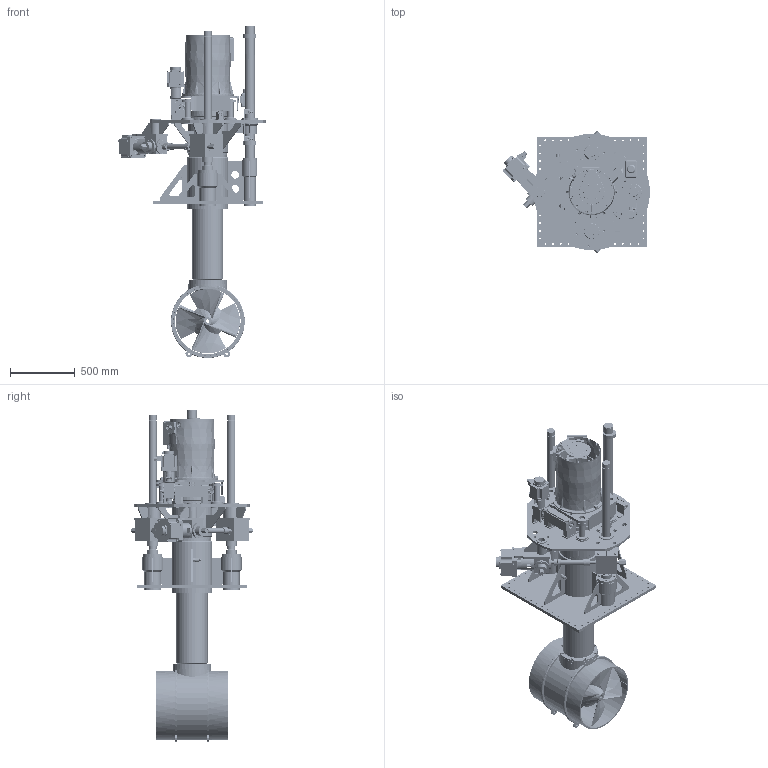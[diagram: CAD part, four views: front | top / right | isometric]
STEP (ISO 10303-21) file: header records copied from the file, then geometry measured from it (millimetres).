
FILE_DESCRIPTION(/* description */ (''),/* implementation_level */ '2;1');
FILE_NAME(/* name */ 'Q:\THRUSTERS\THRUSTER SALES & SUPPORT DOCS\THRUSTER Sales\E-V-R\E-0500-V-R\MODELS\E-0500-V-R-DEPLOYED.stp',/* time_stamp */ '2021-01-28T16:43:55+00:00',/* author */ ('Barney.Webborn'),/* organization */ (''),/* preprocessor_version */ 'ST-DEVELOPER v17.2',/* originating_system */ 'Autodesk Inventor 2019',/* authorisation */ '');
FILE_SCHEMA (('AUTOMOTIVE_DESIGN { 1 0 10303 214 3 1 1 }'));
Length unit declared in the file: millimetre
Products named in the file (1): E-0500-V-R_Shrinkwrap_1
Bounding box: 1144.87 x 946.36 x 2569.61 mm (x, y, z)
Volume: 187835306.2 mm3; surface area: 15214479.8 mm2
Topology: 8 solids, 8 shells, 10742 faces, 29460 edges, 19193 vertices
Faces by surface type: plane 5711, cylinder 2611, bspline 1010, cone 868, torus 440, sphere 102
Full cylindrical faces by diameter (mm): 3 x6, 4 x8, 4.95 x8, 5 x3, 5.5 x12, 7 x23, 7.2 x2, 7.323 x6, 8 x41, 8.5 x19, 9 x30, 9.43 x19, 9.8 x1, 10 x1, 10.106 x2, 10.5 x2, 11 x2, 11.7 x3, 12 x1, 12.4 x4, 12.5 x8, 13 x73, 13.44 x1, 13.5 x4, 13.9 x2, 14 x3, 14.287 x1, 14.3 x1, 15 x16, 15.25 x7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
Entity records: 393483 total; most frequent: CARTESIAN_POINT 113650, ORIENTED_EDGE 58602, DIRECTION 53068, EDGE_CURVE 29301, VERTEX_POINT 19193, AXIS2_PLACEMENT_3D 18334, LINE 16400, VECTOR 16400
